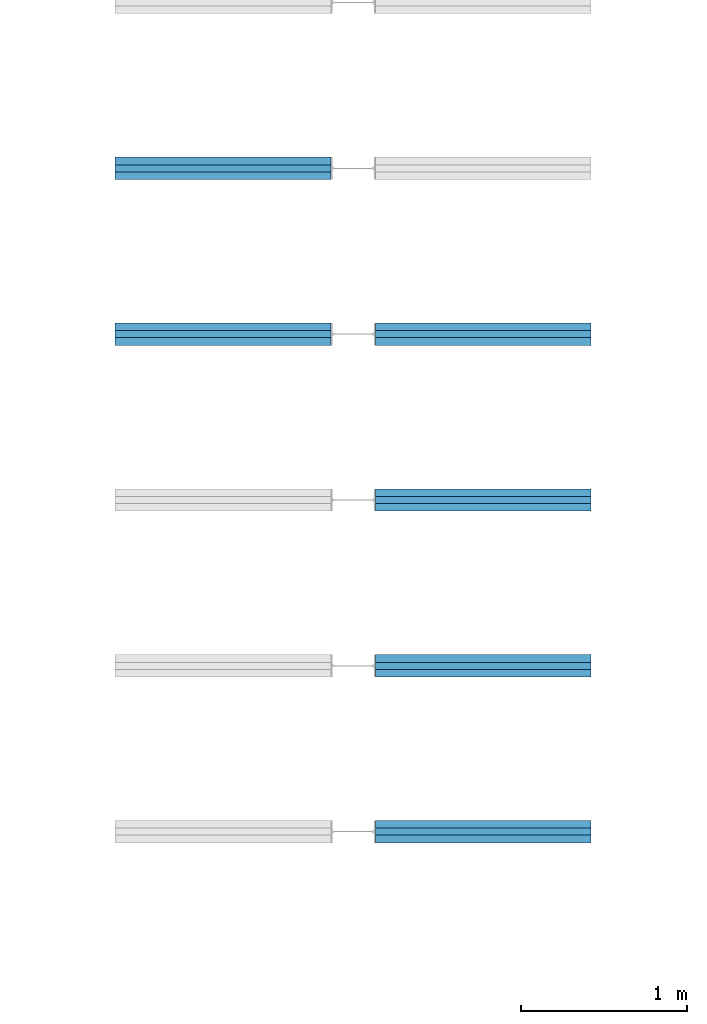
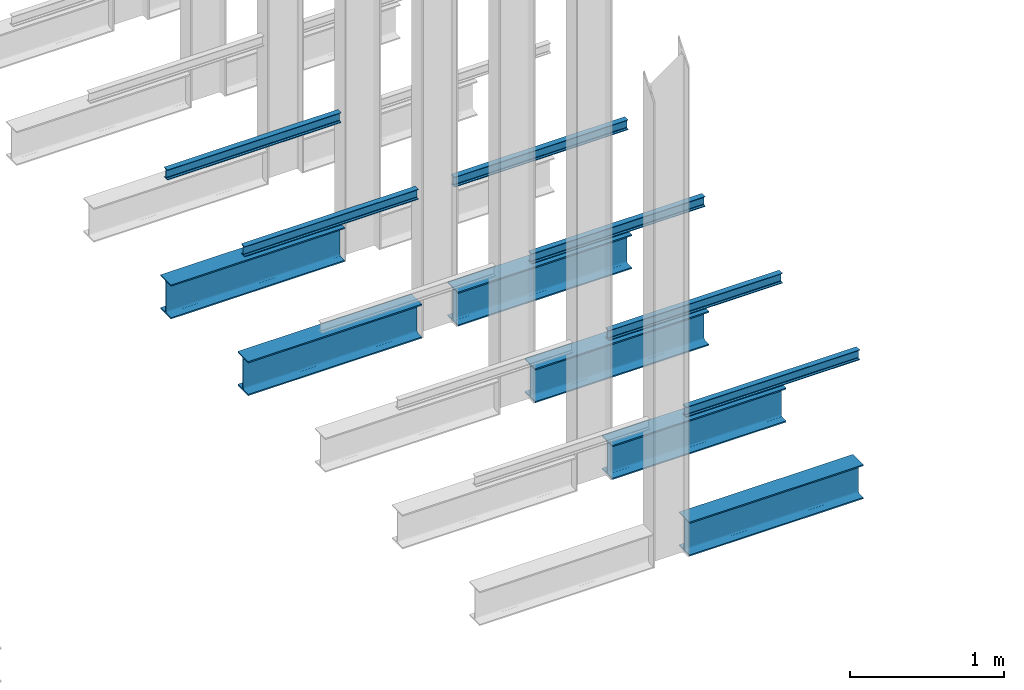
# One storey, part 161 of 302: 12 beams.
"""IFC2X3 building model written with IfcOpenShell, lengths in metres."""

import ifcopenshell
import ifcopenshell.guid

model = None  # the IFC model being written
_history = None  # IfcOwnerHistory: only IFC2X3 demands one
_inside = {}  # id of a spatial element -> (the spatial element, [elements in it])
_under = {}  # id of a project, library or spatial element -> (it, [spatial elements below it])
_declared = {}  # id of a project -> (the project, [libraries it declares])
_typed = {}  # id of a type object -> (the type object, [elements of that type])
_made_of = {}  # id of a material, layer set ... -> (it, [elements and type objects made of it])


def new_model(schema):
    """Start an empty IFC model of exactly this schema.

    Asked for "IFC4X3", IfcOpenShell would pick the latest addendum, in which some entities
    have other attributes; the version numbers below select the first issue.
    IFC2X3 requires an IfcOwnerHistory on every rooted entity: one is made here for all.
    """
    global model, _history
    if schema == "IFC4X3":
        model = ifcopenshell.file(schema_version=(4, 3, 0, 0))
    else:
        model = ifcopenshell.file(schema=schema)
    _inside.clear()
    _under.clear()
    _declared.clear()
    _typed.clear()
    _made_of.clear()
    _history = None
    if model.schema == "IFC2X3":
        org = make("IfcOrganization", Name="unknown")
        user = make(
            "IfcPersonAndOrganization",
            ThePerson=make("IfcPerson", FamilyName="unknown"),
            TheOrganization=org,
        )
        app = make(
            "IfcApplication",
            ApplicationDeveloper=org,
            Version="unknown",
            ApplicationFullName="unknown",
            ApplicationIdentifier="unknown",
        )
        _history = make(
            "IfcOwnerHistory",
            OwningUser=user,
            OwningApplication=app,
            ChangeAction="ADDED",
            CreationDate=0,
        )
    return model


def make(cls, **values):
    """One entity of the class cls with the attributes given. An attribute that is None is left unset."""
    return model.create_entity(
        cls, **{name: value for name, value in values.items() if value is not None}
    )


def entity(cls, *values):
    """Any entity or typed value of the class cls, its attributes in the order of the schema. None: left unset."""
    e = model.create_entity(cls)
    for i, value in enumerate(values):
        if value is not None:
            e[i] = value
    return e


def rooted(cls, **values):
    """An entity with a GlobalId (a new one), such as an element, a storey or a relation."""
    return make(cls, GlobalId=ifcopenshell.guid.new(), OwnerHistory=_history, **values)


def si_unit(unit_type, name, prefix=None):
    """IfcSIUnit, for example si_unit("LENGTHUNIT", "METRE", prefix="MILLI")."""
    return make("IfcSIUnit", UnitType=unit_type, Prefix=prefix, Name=name)


def converted_unit(unit_type, name, factor, base, dimensions=None, offset=None):
    """IfcConversionBasedUnit, such as the inch: factor (a typed value) times the base unit."""
    return make(
        "IfcConversionBasedUnit"
        if offset is None
        else "IfcConversionBasedUnitWithOffset",
        ConversionOffset=offset,
        Dimensions=None
        if dimensions is None
        else entity("IfcDimensionalExponents", *dimensions),
        UnitType=unit_type,
        Name=name,
        ConversionFactor=make(
            "IfcMeasureWithUnit", ValueComponent=factor, UnitComponent=base
        ),
    )


def derived_unit(unit_type, elements):
    """IfcDerivedUnit: a product of units, each with its exponent."""
    return make(
        "IfcDerivedUnit",
        Elements=[
            make("IfcDerivedUnitElement", Unit=unit, Exponent=power)
            for unit, power in elements
        ],
        UnitType=unit_type,
    )


def assignment(units):
    """IfcUnitAssignment: the units of a project."""
    return None if units is None else make("IfcUnitAssignment", Units=units)


def point(xyz):
    """IfcCartesianPoint."""
    return None if xyz is None else make("IfcCartesianPoint", Coordinates=xyz)


def direction(xyz):
    """IfcDirection."""
    return None if xyz is None else make("IfcDirection", DirectionRatios=xyz)


def frame(location, z_axis=None, x_axis=None):
    """IfcAxis2Placement3D, a coordinate frame: its origin and axes. An axis left out is left unset."""
    return make(
        "IfcAxis2Placement3D",
        Location=point(location),
        Axis=direction(z_axis),
        RefDirection=direction(x_axis),
    )


def frame_2d(location, x_axis=None):
    """IfcAxis2Placement2D, a coordinate frame in the plane: its origin and x axis."""
    return make(
        "IfcAxis2Placement2D", Location=point(location), RefDirection=direction(x_axis)
    )


def origin():
    """The frame at (0, 0, 0) with its axes left unset."""
    return frame((0.0, 0.0, 0.0))


def place(relative_to, where):
    """IfcLocalPlacement: puts the frame where relative to a parent placement (None: the world)."""
    return make(
        "IfcLocalPlacement", PlacementRelTo=relative_to, RelativePlacement=where
    )


def context(
    kind, dimensions, precision=None, world=None, true_north=None, identifier=None
):
    """IfcGeometricRepresentationContext, for example the 3D "Model" context."""
    return make(
        "IfcGeometricRepresentationContext",
        ContextIdentifier=identifier,
        ContextType=kind,
        CoordinateSpaceDimension=dimensions,
        Precision=precision,
        WorldCoordinateSystem=world,
        TrueNorth=true_north,
    )


def subcontext(parent, identifier, kind, view, scale=None):
    """IfcGeometricRepresentationSubContext, for example "Body" below "Model"."""
    return make(
        "IfcGeometricRepresentationSubContext",
        ContextIdentifier=identifier,
        ContextType=kind,
        ParentContext=parent,
        TargetScale=scale,
        TargetView=view,
    )


def project(units=None, contexts=None):
    """IfcProject with its units and contexts."""
    return rooted(
        "IfcProject",
        Name="project",
        RepresentationContexts=contexts,
        UnitsInContext=assignment(units),
    )


def spatial(cls, under=None, at=None, **own):
    """A site, building, storey or space (cls), placed at a placement, below another one or the project."""
    s = rooted(cls, ObjectPlacement=at, **own)
    if under is not None:
        _under.setdefault(under.id(), (under, []))[1].append(s)
    return s


def polyline(points):
    """IfcPolyline through the points."""
    return make("IfcPolyline", Points=[point(p) for p in points])


def circle_curve(where, radius):
    """IfcCircle in the frame where."""
    return make("IfcCircle", Position=where, Radius=radius)


def parameter(value):
    """IfcParameterValue: where a trimmed curve begins or ends, as a parameter of its basis curve."""
    return model.create_entity("IfcParameterValue", value)


def trimmed(basis, trim1, trim2, sense, master):
    """IfcTrimmedCurve: the piece of a basis curve between two trims."""
    return make(
        "IfcTrimmedCurve",
        BasisCurve=basis,
        Trim1=trim1,
        Trim2=trim2,
        SenseAgreement=sense,
        MasterRepresentation=master,
    )


def segment(curve, same_sense, transition):
    """IfcCompositeCurveSegment."""
    return make(
        "IfcCompositeCurveSegment",
        Transition=transition,
        SameSense=same_sense,
        ParentCurve=curve,
    )


def composite_curve(segments, self_intersect=None):
    """IfcCompositeCurve: segments joined end to end."""
    return make("IfcCompositeCurve", Segments=segments, SelfIntersect=self_intersect)


def profile(cls, at=None, kind="AREA", **sizes):
    """A parametric profile (cls). Its sizes go by their IFC names, for example OverallWidth=200.0."""
    return make(cls, ProfileType=kind, Position=at, **sizes)


def i_section(**sizes):
    """IfcIShapeProfileDef."""
    return profile("IfcIShapeProfileDef", **sizes)


def outline(outer, holes=None, kind="AREA"):
    """IfcArbitraryClosedProfileDef: a profile drawn as a closed curve; with holes, ...WithVoids."""
    if holes is None:
        return make("IfcArbitraryClosedProfileDef", ProfileType=kind, OuterCurve=outer)
    return make(
        "IfcArbitraryProfileDefWithVoids",
        ProfileType=kind,
        OuterCurve=outer,
        InnerCurves=holes,
    )


def extrude(swept, where, along, depth):
    """IfcExtrudedAreaSolid: the profile swept, set in the frame where, extruded along a direction by depth."""
    return make(
        "IfcExtrudedAreaSolid",
        SweptArea=swept,
        Position=where,
        ExtrudedDirection=direction(along),
        Depth=depth,
    )


def shape(context_of_items, identifier, shape_type, items):
    """IfcShapeRepresentation: the items that make up one representation, for example the "Body"."""
    return make(
        "IfcShapeRepresentation",
        ContextOfItems=context_of_items,
        RepresentationIdentifier=identifier,
        RepresentationType=shape_type,
        Items=items,
    )


def material(Name=None, Category=None):
    """IfcMaterial."""
    return make("IfcMaterial", Name=Name, Category=Category)


def made_of(thing, what):
    """Note that an element or type object is made of a material, layer set ...; save() writes the relation."""
    if what is not None:
        _made_of.setdefault(what.id(), (what, []))[1].append(thing)
    return thing


def type_object(cls, material=None, **own):
    """A type object (cls), such as IfcWallType, which elements share."""
    return made_of(rooted(cls, **own), material)


def element(
    cls,
    number,
    at=None,
    inside=None,
    cuts=None,
    type_object=None,
    material=None,
    context=None,
    identifier="Body",
    shape_type=None,
    held_by="IfcProductDefinitionShape",
    body=None,
    shapes=None,
    **own,
):
    """One element of the class cls, such as IfcWall. Its Tag is "e" and its number.

    at: its placement. inside: the storey or other place that contains it. cuts: it is an
    opening in that element (IfcRelVoidsElement). A single representation is given by context,
    identifier, shape_type and body (its items); several are given by shapes. held_by: the class
    of the entity that holds the representations. save() writes the other relations.
    """
    e = rooted(cls, Tag="e%d" % number, ObjectPlacement=at, **own)
    if body is not None:
        shapes = [shape(context, identifier, shape_type, body)]
    if shapes is not None:
        e.Representation = make(held_by, Representations=shapes)
    if inside is not None:
        _inside.setdefault(inside.id(), (inside, []))[1].append(e)
    if cuts is not None:
        rooted(
            "IfcRelVoidsElement", RelatingBuildingElement=cuts, RelatedOpeningElement=e
        )
    if type_object is not None:
        _typed.setdefault(type_object.id(), (type_object, []))[1].append(e)
    return made_of(e, material)


def aggregate(whole, parts):
    """IfcRelAggregates: a whole, such as a stair, and the parts it consists of."""
    return rooted("IfcRelAggregates", RelatingObject=whole, RelatedObjects=parts)


def save(model, path):
    """Write the relations noted so far, then the file.

    IfcRelAggregates (storeys below a building ...), IfcRelContainedInSpatialStructure (elements
    in a storey), IfcRelDefinesByType, IfcRelAssociatesMaterial and IfcRelDeclares: one each for
    every whole, place, type object, material and project.
    """
    for whole, parts in _under.values():
        aggregate(whole, parts)
    for where, things in _inside.values():
        rooted(
            "IfcRelContainedInSpatialStructure",
            RelatedElements=things,
            RelatingStructure=where,
        )
    for kind, things in _typed.values():
        rooted("IfcRelDefinesByType", RelatedObjects=things, RelatingType=kind)
    for what, things in _made_of.values():
        rooted("IfcRelAssociatesMaterial", RelatedObjects=things, RelatingMaterial=what)
    for by, libraries in _declared.values():
        rooted("IfcRelDeclares", RelatingContext=by, RelatedDefinitions=libraries)
    model.write(path)


model = new_model("IFC2X3")

# Units and contexts
model_context = context("Model", 3, precision=1e-05, world=origin(), true_north=direction((6.12303176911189e-17, 1.0)))
body_context = subcontext(model_context, "Body", "Model", "MODEL_VIEW")
ifc_project = project(units=[si_unit("LENGTHUNIT", "METRE"), si_unit("AREAUNIT", "SQUARE_METRE"), si_unit("VOLUMEUNIT", "CUBIC_METRE"), converted_unit("PLANEANGLEUNIT", "DEGREE", entity("IfcRatioMeasure", 0.0174532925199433), si_unit("PLANEANGLEUNIT", "RADIAN"), dimensions=[0, 0, 0, 0, 0, 0, 0]), si_unit("MASSUNIT", "GRAM", prefix="KILO"), derived_unit("MASSDENSITYUNIT", [(si_unit("MASSUNIT", "GRAM", prefix="KILO"), 1), (si_unit("LENGTHUNIT", "METRE"), -3)]), derived_unit("MOMENTOFINERTIAUNIT", [(si_unit("LENGTHUNIT", "METRE"), 4)]), si_unit("TIMEUNIT", "SECOND"), si_unit("FREQUENCYUNIT", "HERTZ"), si_unit("THERMODYNAMICTEMPERATUREUNIT", "DEGREE_CELSIUS"), derived_unit("THERMALTRANSMITTANCEUNIT", [(si_unit("MASSUNIT", "GRAM", prefix="KILO"), 1), (si_unit("THERMODYNAMICTEMPERATUREUNIT", "KELVIN"), -1), (si_unit("TIMEUNIT", "SECOND"), -3)]), derived_unit("VOLUMETRICFLOWRATEUNIT", [(si_unit("LENGTHUNIT", "METRE"), 3), (si_unit("TIMEUNIT", "SECOND"), -1)]), si_unit("ELECTRICCURRENTUNIT", "AMPERE"), si_unit("ELECTRICVOLTAGEUNIT", "VOLT"), si_unit("POWERUNIT", "WATT"), si_unit("FORCEUNIT", "NEWTON", prefix="KILO"), si_unit("ILLUMINANCEUNIT", "LUX"), si_unit("LUMINOUSFLUXUNIT", "LUMEN"), si_unit("LUMINOUSINTENSITYUNIT", "CANDELA"), derived_unit("USERDEFINED", [(si_unit("MASSUNIT", "GRAM", prefix="KILO"), -1), (si_unit("LENGTHUNIT", "METRE"), -2), (si_unit("TIMEUNIT", "SECOND"), 3), (si_unit("LUMINOUSFLUXUNIT", "LUMEN"), 1)]), derived_unit("LINEARVELOCITYUNIT", [(si_unit("LENGTHUNIT", "METRE"), 1), (si_unit("TIMEUNIT", "SECOND"), -1)]), si_unit("PRESSUREUNIT", "PASCAL"), derived_unit("USERDEFINED", [(si_unit("LENGTHUNIT", "METRE"), -2), (si_unit("MASSUNIT", "GRAM", prefix="KILO"), 1), (si_unit("TIMEUNIT", "SECOND"), -2)]), derived_unit("LINEARFORCEUNIT", [(si_unit("MASSUNIT", "GRAM", prefix="KILO"), 1), (si_unit("LENGTHUNIT", "METRE"), 1), (si_unit("TIMEUNIT", "SECOND"), -2), (si_unit("LENGTHUNIT", "METRE"), -1)]), derived_unit("PLANARFORCEUNIT", [(si_unit("MASSUNIT", "GRAM", prefix="KILO"), 1), (si_unit("LENGTHUNIT", "METRE"), 1), (si_unit("TIMEUNIT", "SECOND"), -2), (si_unit("LENGTHUNIT", "METRE"), -2)])], contexts=[model_context])

# Site, building, storey
site_placement = place(None, origin())
site = spatial("IfcSite", under=ifc_project, at=site_placement, Name="Default", CompositionType="ELEMENT")
building_placement = place(site_placement, origin())
building = spatial("IfcBuilding", under=site, at=building_placement, CompositionType="ELEMENT")
storey_placement = place(building_placement, frame((0.0, 0.0, -1.3)))
storey = spatial("IfcBuildingStorey", under=building, at=storey_placement, Name="00_EG", CompositionType="ELEMENT", Elevation=-1.3)

# Beams
ifc_material = material(Name="Metall - Baustahl S235")
beam_type_1 = type_object("IfcBeamType", Name="IPN Träger:IPN 80", PredefinedType="NOTDEFINED")
beam_1_placement = place(storey_placement, frame((-164.910111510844, 28.036588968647, 2.42), z_axis=(0.0, 0.0, 1.0), x_axis=(-1.0, 0.0, 0.0)))
element("IfcBeam", 1, at=beam_1_placement, inside=storey, type_object=beam_type_1, material=ifc_material, Name="IPN Träger:IPN 80", ObjectType="IPN Träger:IPN 80", context=body_context, shape_type="SweptSolid", body=[
    extrude(outline(composite_curve([segment(polyline([(0.0375704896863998, -0.0210000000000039), (0.0399999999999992, -0.0210000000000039)]), True, "CONTINUOUS"), segment(polyline([(0.0399999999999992, -0.0210000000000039), (0.0399999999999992, 0.0209999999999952)]), True, "CONTINUOUS"), segment(polyline([(0.039999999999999, 0.0209999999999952), (0.037570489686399, 0.0209999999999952)]), True, "CONTINUOUS"), segment(trimmed(circle_curve(frame_2d((0.037570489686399, 0.0186999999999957), x_axis=(0.0, 1.0)), 0.00230000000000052), [parameter(0.0)], [parameter(82.0299999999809)], True, "PARAMETER"), True, "CONTINUOUS"), segment(polyline([(0.0352927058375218, 0.0190189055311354), (0.0333732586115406, 0.00530924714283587)]), True, "CONTINUOUS"), segment(trimmed(circle_curve(frame_2d((0.0295109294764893, 0.00584999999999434), x_axis=(0.990340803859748, -0.138654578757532)), 0.00389999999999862), [parameter(277.969999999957)], [parameter(0.0)], True, "PARAMETER"), False, "CONTINUOUS"), segment(polyline([(0.0295109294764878, 0.00194999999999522), (-0.0295109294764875, 0.00194999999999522)]), True, "CONTINUOUS"), segment(trimmed(circle_curve(frame_2d((-0.029510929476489, 0.00584999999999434), x_axis=(0.0, -1.0)), 0.00389999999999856), [parameter(277.969999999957)], [parameter(0.0)], True, "PARAMETER"), False, "CONTINUOUS"), segment(polyline([(-0.0333732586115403, 0.0053092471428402), (-0.0352927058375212, 0.0190189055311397)]), True, "CONTINUOUS"), segment(trimmed(circle_curve(frame_2d((-0.0375704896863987, 0.0186999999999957), x_axis=(0.990340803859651, 0.138654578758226)), 0.00230000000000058), [parameter(0.0)], [parameter(82.029999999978)], True, "PARAMETER"), True, "CONTINUOUS"), segment(polyline([(-0.0375704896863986, 0.0209999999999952), (-0.0400000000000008, 0.0209999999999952)]), True, "CONTINUOUS"), segment(polyline([(-0.0400000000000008, 0.0209999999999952), (-0.0400000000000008, -0.0210000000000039)]), True, "CONTINUOUS"), segment(polyline([(-0.0400000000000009, -0.0210000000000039), (-0.037570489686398, -0.0210000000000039)]), True, "CONTINUOUS"), segment(trimmed(circle_curve(frame_2d((-0.0375704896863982, -0.0187000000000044), x_axis=(0.0, -1.0)), 0.00230000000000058), [parameter(0.0)], [parameter(82.029999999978)], True, "PARAMETER"), True, "CONTINUOUS"), segment(polyline([(-0.0352927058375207, -0.019018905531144), (-0.0333732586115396, -0.00530924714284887)]), True, "CONTINUOUS"), segment(trimmed(circle_curve(frame_2d((-0.0295109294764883, -0.005850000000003), x_axis=(-0.990340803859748, 0.138654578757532)), 0.00389999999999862), [parameter(277.969999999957)], [parameter(0.0)], True, "PARAMETER"), False, "CONTINUOUS"), segment(polyline([(-0.0295109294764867, -0.00195000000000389), (0.0295109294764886, -0.00195000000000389)]), True, "CONTINUOUS"), segment(trimmed(circle_curve(frame_2d((0.0295109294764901, -0.005850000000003), x_axis=(0.0, 1.0)), 0.00389999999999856), [parameter(277.969999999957)], [parameter(0.0)], True, "PARAMETER"), False, "CONTINUOUS"), segment(polyline([(0.0333732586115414, -0.00530924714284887), (0.0352927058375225, -0.0190189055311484)]), True, "CONTINUOUS"), segment(trimmed(circle_curve(frame_2d((0.0375704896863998, -0.0187000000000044), x_axis=(-0.990340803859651, -0.138654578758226)), 0.00230000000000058), [parameter(0.0)], [parameter(82.029999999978)], True, "PARAMETER"), True, "CONTINUOUS")], self_intersect=False)), frame((0.000100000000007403, 0.0210000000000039, -0.0400000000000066), z_axis=(1.0, 0.0, 0.0), x_axis=(0.0, 0.0, -1.0)), (0.0, 0.0, 1.0), 1.29990000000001),
])
beam_2_placement = place(storey_placement, frame((-164.640111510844, 26.994588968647, 2.42)))
element("IfcBeam", 2, at=beam_2_placement, inside=storey, type_object=beam_type_1, material=ifc_material, Name="IPN Träger:IPN 80", ObjectType="IPN Träger:IPN 80", context=body_context, shape_type="SweptSolid", body=[
    extrude(outline(composite_curve([segment(polyline([(0.0375704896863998, -0.0210000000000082), (0.0399999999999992, -0.0210000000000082)]), True, "CONTINUOUS"), segment(polyline([(0.0399999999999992, -0.0210000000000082), (0.0399999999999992, 0.0209999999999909)]), True, "CONTINUOUS"), segment(polyline([(0.039999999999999, 0.0209999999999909), (0.037570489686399, 0.0209999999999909)]), True, "CONTINUOUS"), segment(trimmed(circle_curve(frame_2d((0.037570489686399, 0.0186999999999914), x_axis=(0.0, 1.0)), 0.00230000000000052), [parameter(0.0)], [parameter(82.0299999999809)], True, "PARAMETER"), True, "CONTINUOUS"), segment(polyline([(0.0352927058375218, 0.019018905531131), (0.0333732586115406, 0.00530924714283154)]), True, "CONTINUOUS"), segment(trimmed(circle_curve(frame_2d((0.0295109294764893, 0.00584999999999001), x_axis=(0.990340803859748, -0.138654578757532)), 0.00389999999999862), [parameter(277.969999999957)], [parameter(0.0)], True, "PARAMETER"), False, "CONTINUOUS"), segment(polyline([(0.0295109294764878, 0.00194999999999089), (-0.0295109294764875, 0.00194999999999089)]), True, "CONTINUOUS"), segment(trimmed(circle_curve(frame_2d((-0.029510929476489, 0.00584999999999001), x_axis=(0.0, -1.0)), 0.00389999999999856), [parameter(277.969999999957)], [parameter(0.0)], True, "PARAMETER"), False, "CONTINUOUS"), segment(polyline([(-0.0333732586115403, 0.00530924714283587), (-0.0352927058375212, 0.0190189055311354)]), True, "CONTINUOUS"), segment(trimmed(circle_curve(frame_2d((-0.0375704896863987, 0.0186999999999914), x_axis=(0.990340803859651, 0.138654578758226)), 0.00230000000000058), [parameter(0.0)], [parameter(82.029999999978)], True, "PARAMETER"), True, "CONTINUOUS"), segment(polyline([(-0.0375704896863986, 0.0209999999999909), (-0.0400000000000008, 0.0209999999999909)]), True, "CONTINUOUS"), segment(polyline([(-0.0400000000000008, 0.0209999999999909), (-0.0400000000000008, -0.0210000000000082)]), True, "CONTINUOUS"), segment(polyline([(-0.0400000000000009, -0.0210000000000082), (-0.037570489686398, -0.0210000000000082)]), True, "CONTINUOUS"), segment(trimmed(circle_curve(frame_2d((-0.0375704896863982, -0.0187000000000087), x_axis=(0.0, -1.0)), 0.00230000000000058), [parameter(0.0)], [parameter(82.029999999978)], True, "PARAMETER"), True, "CONTINUOUS"), segment(polyline([(-0.0352927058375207, -0.0190189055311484), (-0.0333732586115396, -0.0053092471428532)]), True, "CONTINUOUS"), segment(trimmed(circle_curve(frame_2d((-0.0295109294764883, -0.00585000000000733), x_axis=(-0.990340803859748, 0.138654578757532)), 0.00389999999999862), [parameter(277.969999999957)], [parameter(0.0)], True, "PARAMETER"), False, "CONTINUOUS"), segment(polyline([(-0.0295109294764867, -0.00195000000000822), (0.0295109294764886, -0.00195000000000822)]), True, "CONTINUOUS"), segment(trimmed(circle_curve(frame_2d((0.0295109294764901, -0.00585000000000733), x_axis=(0.0, 1.0)), 0.00389999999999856), [parameter(277.969999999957)], [parameter(0.0)], True, "PARAMETER"), False, "CONTINUOUS"), segment(polyline([(0.0333732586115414, -0.0053092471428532), (0.0352927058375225, -0.0190189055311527)]), True, "CONTINUOUS"), segment(trimmed(circle_curve(frame_2d((0.0375704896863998, -0.0187000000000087), x_axis=(-0.990340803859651, -0.138654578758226)), 0.00230000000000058), [parameter(0.0)], [parameter(82.029999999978)], True, "PARAMETER"), True, "CONTINUOUS")], self_intersect=False)), frame((9.99999999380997e-05, 0.0210000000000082, -0.0400000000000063), z_axis=(1.0, 0.0, 0.0), x_axis=(0.0, 0.0, -1.0)), (0.0, 0.0, 1.0), 1.29990000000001),
])
beam_3_placement = place(storey_placement, frame((-164.910111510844, 27.036588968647, 2.42), z_axis=(0.0, 0.0, 1.0), x_axis=(-1.0, 0.0, 0.0)))
element("IfcBeam", 3, at=beam_3_placement, inside=storey, type_object=beam_type_1, material=ifc_material, Name="IPN Träger:IPN 80", ObjectType="IPN Träger:IPN 80", context=body_context, shape_type="SweptSolid", body=[
    extrude(outline(composite_curve([segment(polyline([(0.0375704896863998, -0.0210000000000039), (0.0399999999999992, -0.0210000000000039)]), True, "CONTINUOUS"), segment(polyline([(0.0399999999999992, -0.0210000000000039), (0.0399999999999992, 0.0209999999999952)]), True, "CONTINUOUS"), segment(polyline([(0.039999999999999, 0.0209999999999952), (0.037570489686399, 0.0209999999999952)]), True, "CONTINUOUS"), segment(trimmed(circle_curve(frame_2d((0.037570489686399, 0.0186999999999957), x_axis=(0.0, 1.0)), 0.00230000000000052), [parameter(0.0)], [parameter(82.0299999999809)], True, "PARAMETER"), True, "CONTINUOUS"), segment(polyline([(0.0352927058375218, 0.0190189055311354), (0.0333732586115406, 0.00530924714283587)]), True, "CONTINUOUS"), segment(trimmed(circle_curve(frame_2d((0.0295109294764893, 0.00584999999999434), x_axis=(0.990340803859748, -0.138654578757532)), 0.00389999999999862), [parameter(277.969999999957)], [parameter(0.0)], True, "PARAMETER"), False, "CONTINUOUS"), segment(polyline([(0.0295109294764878, 0.00194999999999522), (-0.0295109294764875, 0.00194999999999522)]), True, "CONTINUOUS"), segment(trimmed(circle_curve(frame_2d((-0.029510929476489, 0.00584999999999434), x_axis=(0.0, -1.0)), 0.00389999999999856), [parameter(277.969999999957)], [parameter(0.0)], True, "PARAMETER"), False, "CONTINUOUS"), segment(polyline([(-0.0333732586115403, 0.0053092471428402), (-0.0352927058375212, 0.0190189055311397)]), True, "CONTINUOUS"), segment(trimmed(circle_curve(frame_2d((-0.0375704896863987, 0.0186999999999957), x_axis=(0.990340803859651, 0.138654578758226)), 0.00230000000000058), [parameter(0.0)], [parameter(82.029999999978)], True, "PARAMETER"), True, "CONTINUOUS"), segment(polyline([(-0.0375704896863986, 0.0209999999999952), (-0.0400000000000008, 0.0209999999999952)]), True, "CONTINUOUS"), segment(polyline([(-0.0400000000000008, 0.0209999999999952), (-0.0400000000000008, -0.0210000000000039)]), True, "CONTINUOUS"), segment(polyline([(-0.0400000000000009, -0.0210000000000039), (-0.037570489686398, -0.0210000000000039)]), True, "CONTINUOUS"), segment(trimmed(circle_curve(frame_2d((-0.0375704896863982, -0.0187000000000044), x_axis=(0.0, -1.0)), 0.00230000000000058), [parameter(0.0)], [parameter(82.029999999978)], True, "PARAMETER"), True, "CONTINUOUS"), segment(polyline([(-0.0352927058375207, -0.019018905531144), (-0.0333732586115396, -0.00530924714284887)]), True, "CONTINUOUS"), segment(trimmed(circle_curve(frame_2d((-0.0295109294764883, -0.005850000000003), x_axis=(-0.990340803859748, 0.138654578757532)), 0.00389999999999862), [parameter(277.969999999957)], [parameter(0.0)], True, "PARAMETER"), False, "CONTINUOUS"), segment(polyline([(-0.0295109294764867, -0.00195000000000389), (0.0295109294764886, -0.00195000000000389)]), True, "CONTINUOUS"), segment(trimmed(circle_curve(frame_2d((0.0295109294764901, -0.005850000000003), x_axis=(0.0, 1.0)), 0.00389999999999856), [parameter(277.969999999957)], [parameter(0.0)], True, "PARAMETER"), False, "CONTINUOUS"), segment(polyline([(0.0333732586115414, -0.00530924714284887), (0.0352927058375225, -0.0190189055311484)]), True, "CONTINUOUS"), segment(trimmed(circle_curve(frame_2d((0.0375704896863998, -0.0187000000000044), x_axis=(-0.990340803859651, -0.138654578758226)), 0.00230000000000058), [parameter(0.0)], [parameter(82.029999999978)], True, "PARAMETER"), True, "CONTINUOUS")], self_intersect=False)), frame((0.000100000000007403, 0.0210000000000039, -0.0400000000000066), z_axis=(1.0, 0.0, 0.0), x_axis=(0.0, 0.0, -1.0)), (0.0, 0.0, 1.0), 1.29990000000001),
])
beam_4_placement = place(storey_placement, frame((-164.640111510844, 25.994588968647, 2.42)))
element("IfcBeam", 4, at=beam_4_placement, inside=storey, type_object=beam_type_1, material=ifc_material, Name="IPN Träger:IPN 80", ObjectType="IPN Träger:IPN 80", context=body_context, shape_type="SweptSolid", body=[
    extrude(outline(composite_curve([segment(polyline([(0.0375704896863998, -0.0209999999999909), (0.0399999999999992, -0.0209999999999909)]), True, "CONTINUOUS"), segment(polyline([(0.0399999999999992, -0.0209999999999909), (0.0399999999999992, 0.0210000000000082)]), True, "CONTINUOUS"), segment(polyline([(0.039999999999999, 0.0210000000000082), (0.037570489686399, 0.0210000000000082)]), True, "CONTINUOUS"), segment(trimmed(circle_curve(frame_2d((0.037570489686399, 0.0187000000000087), x_axis=(0.0, 1.0)), 0.00230000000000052), [parameter(0.0)], [parameter(82.0299999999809)], True, "PARAMETER"), True, "CONTINUOUS"), segment(polyline([(0.0352927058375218, 0.0190189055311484), (0.0333732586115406, 0.00530924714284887)]), True, "CONTINUOUS"), segment(trimmed(circle_curve(frame_2d((0.0295109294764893, 0.00585000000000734), x_axis=(0.990340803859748, -0.138654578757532)), 0.00389999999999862), [parameter(277.969999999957)], [parameter(0.0)], True, "PARAMETER"), False, "CONTINUOUS"), segment(polyline([(0.0295109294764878, 0.00195000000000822), (-0.0295109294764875, 0.00195000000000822)]), True, "CONTINUOUS"), segment(trimmed(circle_curve(frame_2d((-0.029510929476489, 0.00585000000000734), x_axis=(0.0, -1.0)), 0.00389999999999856), [parameter(277.969999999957)], [parameter(0.0)], True, "PARAMETER"), False, "CONTINUOUS"), segment(polyline([(-0.0333732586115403, 0.0053092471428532), (-0.0352927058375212, 0.0190189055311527)]), True, "CONTINUOUS"), segment(trimmed(circle_curve(frame_2d((-0.0375704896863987, 0.0187000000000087), x_axis=(0.990340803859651, 0.138654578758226)), 0.00230000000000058), [parameter(0.0)], [parameter(82.029999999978)], True, "PARAMETER"), True, "CONTINUOUS"), segment(polyline([(-0.0375704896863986, 0.0210000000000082), (-0.0400000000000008, 0.0210000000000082)]), True, "CONTINUOUS"), segment(polyline([(-0.0400000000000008, 0.0210000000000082), (-0.0400000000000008, -0.0209999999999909)]), True, "CONTINUOUS"), segment(polyline([(-0.0400000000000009, -0.0209999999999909), (-0.037570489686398, -0.0209999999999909)]), True, "CONTINUOUS"), segment(trimmed(circle_curve(frame_2d((-0.0375704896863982, -0.0186999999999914), x_axis=(0.0, -1.0)), 0.00230000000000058), [parameter(0.0)], [parameter(82.029999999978)], True, "PARAMETER"), True, "CONTINUOUS"), segment(polyline([(-0.0352927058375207, -0.019018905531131), (-0.0333732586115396, -0.00530924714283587)]), True, "CONTINUOUS"), segment(trimmed(circle_curve(frame_2d((-0.0295109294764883, -0.00584999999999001), x_axis=(-0.990340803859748, 0.138654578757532)), 0.00389999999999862), [parameter(277.969999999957)], [parameter(0.0)], True, "PARAMETER"), False, "CONTINUOUS"), segment(polyline([(-0.0295109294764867, -0.00194999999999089), (0.0295109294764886, -0.00194999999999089)]), True, "CONTINUOUS"), segment(trimmed(circle_curve(frame_2d((0.0295109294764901, -0.00584999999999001), x_axis=(0.0, 1.0)), 0.00389999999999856), [parameter(277.969999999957)], [parameter(0.0)], True, "PARAMETER"), False, "CONTINUOUS"), segment(polyline([(0.0333732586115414, -0.00530924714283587), (0.0352927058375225, -0.0190189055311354)]), True, "CONTINUOUS"), segment(trimmed(circle_curve(frame_2d((0.0375704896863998, -0.0186999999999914), x_axis=(-0.990340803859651, -0.138654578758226)), 0.00230000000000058), [parameter(0.0)], [parameter(82.029999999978)], True, "PARAMETER"), True, "CONTINUOUS")], self_intersect=False)), frame((9.99999999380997e-05, 0.0209999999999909, -0.0400000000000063), z_axis=(1.0, 0.0, 0.0), x_axis=(0.0, 0.0, -1.0)), (0.0, 0.0, 1.0), 1.29990000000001),
])
beam_5_placement = place(storey_placement, frame((-164.640111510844, 24.994588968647, 2.42)))
element("IfcBeam", 5, at=beam_5_placement, inside=storey, type_object=beam_type_1, material=ifc_material, Name="IPN Träger:IPN 80", ObjectType="IPN Träger:IPN 80", context=body_context, shape_type="SweptSolid", body=[
    extrude(outline(composite_curve([segment(polyline([(0.0375704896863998, -0.0209999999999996), (0.0399999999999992, -0.0209999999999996)]), True, "CONTINUOUS"), segment(polyline([(0.0399999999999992, -0.0209999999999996), (0.0399999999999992, 0.0209999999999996)]), True, "CONTINUOUS"), segment(polyline([(0.039999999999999, 0.0209999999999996), (0.037570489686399, 0.0209999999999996)]), True, "CONTINUOUS"), segment(trimmed(circle_curve(frame_2d((0.037570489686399, 0.0187000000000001), x_axis=(0.0, 1.0)), 0.00230000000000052), [parameter(0.0)], [parameter(82.0299999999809)], True, "PARAMETER"), True, "CONTINUOUS"), segment(polyline([(0.0352927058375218, 0.0190189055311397), (0.0333732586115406, 0.00530924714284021)]), True, "CONTINUOUS"), segment(trimmed(circle_curve(frame_2d((0.0295109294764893, 0.00584999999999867), x_axis=(0.990340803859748, -0.138654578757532)), 0.00389999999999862), [parameter(277.969999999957)], [parameter(0.0)], True, "PARAMETER"), False, "CONTINUOUS"), segment(polyline([(0.0295109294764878, 0.00194999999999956), (-0.0295109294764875, 0.00194999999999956)]), True, "CONTINUOUS"), segment(trimmed(circle_curve(frame_2d((-0.029510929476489, 0.00584999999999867), x_axis=(0.0, -1.0)), 0.00389999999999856), [parameter(277.969999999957)], [parameter(0.0)], True, "PARAMETER"), False, "CONTINUOUS"), segment(polyline([(-0.0333732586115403, 0.00530924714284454), (-0.0352927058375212, 0.019018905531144)]), True, "CONTINUOUS"), segment(trimmed(circle_curve(frame_2d((-0.0375704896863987, 0.0187000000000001), x_axis=(0.990340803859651, 0.138654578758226)), 0.00230000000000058), [parameter(0.0)], [parameter(82.029999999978)], True, "PARAMETER"), True, "CONTINUOUS"), segment(polyline([(-0.0375704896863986, 0.0209999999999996), (-0.0400000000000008, 0.0209999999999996)]), True, "CONTINUOUS"), segment(polyline([(-0.0400000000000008, 0.0209999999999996), (-0.0400000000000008, -0.0209999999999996)]), True, "CONTINUOUS"), segment(polyline([(-0.0400000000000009, -0.0209999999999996), (-0.037570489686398, -0.0209999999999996)]), True, "CONTINUOUS"), segment(trimmed(circle_curve(frame_2d((-0.0375704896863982, -0.0187000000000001), x_axis=(0.0, -1.0)), 0.00230000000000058), [parameter(0.0)], [parameter(82.029999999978)], True, "PARAMETER"), True, "CONTINUOUS"), segment(polyline([(-0.0352927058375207, -0.0190189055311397), (-0.0333732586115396, -0.00530924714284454)]), True, "CONTINUOUS"), segment(trimmed(circle_curve(frame_2d((-0.0295109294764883, -0.00584999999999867), x_axis=(-0.990340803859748, 0.138654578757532)), 0.00389999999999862), [parameter(277.969999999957)], [parameter(0.0)], True, "PARAMETER"), False, "CONTINUOUS"), segment(polyline([(-0.0295109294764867, -0.00194999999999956), (0.0295109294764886, -0.00194999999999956)]), True, "CONTINUOUS"), segment(trimmed(circle_curve(frame_2d((0.0295109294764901, -0.00584999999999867), x_axis=(0.0, 1.0)), 0.00389999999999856), [parameter(277.969999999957)], [parameter(0.0)], True, "PARAMETER"), False, "CONTINUOUS"), segment(polyline([(0.0333732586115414, -0.00530924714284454), (0.0352927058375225, -0.019018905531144)]), True, "CONTINUOUS"), segment(trimmed(circle_curve(frame_2d((0.0375704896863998, -0.0187000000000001), x_axis=(-0.990340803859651, -0.138654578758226)), 0.00230000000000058), [parameter(0.0)], [parameter(82.029999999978)], True, "PARAMETER"), True, "CONTINUOUS")], self_intersect=False)), frame((9.99999999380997e-05, 0.0209999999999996, -0.0400000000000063), z_axis=(1.0, 0.0, 0.0), x_axis=(0.0, 0.0, -1.0)), (0.0, 0.0, 1.0), 1.29990000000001),
])
beam_6_placement = place(storey_placement, frame((-164.640111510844, 23.994588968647, 2.42)))
element("IfcBeam", 6, at=beam_6_placement, inside=storey, type_object=beam_type_1, material=ifc_material, Name="IPN Träger:IPN 80", ObjectType="IPN Träger:IPN 80", context=body_context, shape_type="SweptSolid", body=[
    extrude(outline(composite_curve([segment(polyline([(0.0375704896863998, -0.0210000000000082), (0.0399999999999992, -0.0210000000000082)]), True, "CONTINUOUS"), segment(polyline([(0.0399999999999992, -0.0210000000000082), (0.0399999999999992, 0.0209999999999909)]), True, "CONTINUOUS"), segment(polyline([(0.039999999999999, 0.0209999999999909), (0.037570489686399, 0.0209999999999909)]), True, "CONTINUOUS"), segment(trimmed(circle_curve(frame_2d((0.037570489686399, 0.0186999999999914), x_axis=(0.0, 1.0)), 0.00230000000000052), [parameter(0.0)], [parameter(82.0299999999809)], True, "PARAMETER"), True, "CONTINUOUS"), segment(polyline([(0.0352927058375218, 0.019018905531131), (0.0333732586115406, 0.00530924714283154)]), True, "CONTINUOUS"), segment(trimmed(circle_curve(frame_2d((0.0295109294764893, 0.00584999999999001), x_axis=(0.990340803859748, -0.138654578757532)), 0.00389999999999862), [parameter(277.969999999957)], [parameter(0.0)], True, "PARAMETER"), False, "CONTINUOUS"), segment(polyline([(0.0295109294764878, 0.00194999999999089), (-0.0295109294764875, 0.00194999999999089)]), True, "CONTINUOUS"), segment(trimmed(circle_curve(frame_2d((-0.029510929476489, 0.00584999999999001), x_axis=(0.0, -1.0)), 0.00389999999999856), [parameter(277.969999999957)], [parameter(0.0)], True, "PARAMETER"), False, "CONTINUOUS"), segment(polyline([(-0.0333732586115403, 0.00530924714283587), (-0.0352927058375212, 0.0190189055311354)]), True, "CONTINUOUS"), segment(trimmed(circle_curve(frame_2d((-0.0375704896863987, 0.0186999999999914), x_axis=(0.990340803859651, 0.138654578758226)), 0.00230000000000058), [parameter(0.0)], [parameter(82.029999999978)], True, "PARAMETER"), True, "CONTINUOUS"), segment(polyline([(-0.0375704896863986, 0.0209999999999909), (-0.0400000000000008, 0.0209999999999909)]), True, "CONTINUOUS"), segment(polyline([(-0.0400000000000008, 0.0209999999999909), (-0.0400000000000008, -0.0210000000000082)]), True, "CONTINUOUS"), segment(polyline([(-0.0400000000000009, -0.0210000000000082), (-0.037570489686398, -0.0210000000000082)]), True, "CONTINUOUS"), segment(trimmed(circle_curve(frame_2d((-0.0375704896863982, -0.0187000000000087), x_axis=(0.0, -1.0)), 0.00230000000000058), [parameter(0.0)], [parameter(82.029999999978)], True, "PARAMETER"), True, "CONTINUOUS"), segment(polyline([(-0.0352927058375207, -0.0190189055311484), (-0.0333732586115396, -0.0053092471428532)]), True, "CONTINUOUS"), segment(trimmed(circle_curve(frame_2d((-0.0295109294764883, -0.00585000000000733), x_axis=(-0.990340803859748, 0.138654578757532)), 0.00389999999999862), [parameter(277.969999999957)], [parameter(0.0)], True, "PARAMETER"), False, "CONTINUOUS"), segment(polyline([(-0.0295109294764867, -0.00195000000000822), (0.0295109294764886, -0.00195000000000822)]), True, "CONTINUOUS"), segment(trimmed(circle_curve(frame_2d((0.0295109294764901, -0.00585000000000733), x_axis=(0.0, 1.0)), 0.00389999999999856), [parameter(277.969999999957)], [parameter(0.0)], True, "PARAMETER"), False, "CONTINUOUS"), segment(polyline([(0.0333732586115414, -0.0053092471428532), (0.0352927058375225, -0.0190189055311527)]), True, "CONTINUOUS"), segment(trimmed(circle_curve(frame_2d((0.0375704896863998, -0.0187000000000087), x_axis=(-0.990340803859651, -0.138654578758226)), 0.00230000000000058), [parameter(0.0)], [parameter(82.029999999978)], True, "PARAMETER"), True, "CONTINUOUS")], self_intersect=False)), frame((9.99999999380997e-05, 0.0210000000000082, -0.0400000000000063), z_axis=(1.0, 0.0, 0.0), x_axis=(0.0, 0.0, -1.0)), (0.0, 0.0, 1.0), 1.29990000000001),
])
beam_type_2 = type_object("IfcBeamType", Name="IPE Träger:IPE 270", PredefinedType="NOTDEFINED")
beam_7_placement = place(storey_placement, frame((-164.640111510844, 24.083088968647, 1.54000000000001)))
element("IfcBeam", 7, at=beam_7_placement, inside=storey, type_object=beam_type_2, material=ifc_material, Name="IPE Träger:IPE 270", ObjectType="IPE Träger:IPE 270", context=body_context, shape_type="SweptSolid", body=[
    extrude(i_section(OverallWidth=0.134999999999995, OverallDepth=0.27, WebThickness=0.00660000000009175, FlangeThickness=0.0102000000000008, FilletRadius=0.0150000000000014, at=frame_2d((5.96744875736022e-16, 2.16493489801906e-15), x_axis=(0.0, 1.0))), frame((9.99999999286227e-05, -0.0674999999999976, -0.135000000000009), z_axis=(1.0, 0.0, 0.0), x_axis=(0.0, 0.0, -1.0)), (0.0, 0.0, 1.0), 1.29990000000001),
])
beam_8_placement = place(storey_placement, frame((-164.640111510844, 25.083088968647, 1.54000000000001)))
element("IfcBeam", 8, at=beam_8_placement, inside=storey, type_object=beam_type_2, material=ifc_material, Name="IPE Träger:IPE 270", ObjectType="IPE Träger:IPE 270", context=body_context, shape_type="SweptSolid", body=[
    extrude(i_section(OverallWidth=0.134999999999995, OverallDepth=0.27, WebThickness=0.00660000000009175, FlangeThickness=0.0102000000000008, FilletRadius=0.0150000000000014, at=frame_2d((5.96744875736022e-16, 2.16493489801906e-15), x_axis=(0.0, 1.0))), frame((9.99999999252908e-05, -0.0674999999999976, -0.135000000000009), z_axis=(1.0, 0.0, 0.0), x_axis=(0.0, 0.0, -1.0)), (0.0, 0.0, 1.0), 1.29990000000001),
])
beam_9_placement = place(storey_placement, frame((-164.640111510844, 26.083088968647, 1.54000000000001)))
element("IfcBeam", 9, at=beam_9_placement, inside=storey, type_object=beam_type_2, material=ifc_material, Name="IPE Träger:IPE 270", ObjectType="IPE Träger:IPE 270", context=body_context, shape_type="SweptSolid", body=[
    extrude(i_section(OverallWidth=0.134999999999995, OverallDepth=0.27, WebThickness=0.00660000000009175, FlangeThickness=0.0102000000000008, FilletRadius=0.0150000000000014, at=frame_2d((5.96744875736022e-16, -6.49480469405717e-15), x_axis=(0.0, 1.0))), frame((9.99999999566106e-05, -0.067499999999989, -0.135000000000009), z_axis=(1.0, 0.0, 0.0), x_axis=(0.0, 0.0, -1.0)), (0.0, 0.0, 1.0), 1.29990000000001),
])
beam_10_placement = place(storey_placement, frame((-164.910111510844, 27.083088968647, 1.54000000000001), z_axis=(0.0, 0.0, 1.0), x_axis=(-1.0, 0.0, 0.0)))
element("IfcBeam", 10, at=beam_10_placement, inside=storey, type_object=beam_type_2, material=ifc_material, Name="IPE Träger:IPE 270", ObjectType="IPE Träger:IPE 270", context=body_context, shape_type="SweptSolid", body=[
    extrude(i_section(OverallWidth=0.134999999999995, OverallDepth=0.27, WebThickness=0.00660000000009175, FlangeThickness=0.0102000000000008, FilletRadius=0.0150000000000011, at=frame_2d((5.96744875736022e-16, -2.16493489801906e-15), x_axis=(0.0, 1.0))), frame((0.000100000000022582, 0.067500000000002, -0.135000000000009), z_axis=(1.0, 0.0, 0.0), x_axis=(0.0, 0.0, -1.0)), (0.0, 0.0, 1.0), 1.29990000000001),
])
beam_11_placement = place(storey_placement, frame((-164.640111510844, 27.083088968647, 1.54000000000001)))
element("IfcBeam", 11, at=beam_11_placement, inside=storey, type_object=beam_type_2, material=ifc_material, Name="IPE Träger:IPE 270", ObjectType="IPE Träger:IPE 270", context=body_context, shape_type="SweptSolid", body=[
    extrude(i_section(OverallWidth=0.134999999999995, OverallDepth=0.27, WebThickness=0.00660000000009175, FlangeThickness=0.0102000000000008, FilletRadius=0.0150000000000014, at=frame_2d((5.96744875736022e-16, -2.16493489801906e-15), x_axis=(0.0, 1.0))), frame((9.99999999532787e-05, -0.0674999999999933, -0.135000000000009), z_axis=(1.0, 0.0, 0.0), x_axis=(0.0, 0.0, -1.0)), (0.0, 0.0, 1.0), 1.29990000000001),
])
beam_12_placement = place(storey_placement, frame((-164.910111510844, 28.083088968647, 1.54000000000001), z_axis=(0.0, 0.0, 1.0), x_axis=(-1.0, 0.0, 0.0)))
element("IfcBeam", 12, at=beam_12_placement, inside=storey, type_object=beam_type_2, material=ifc_material, Name="IPE Träger:IPE 270", ObjectType="IPE Träger:IPE 270", context=body_context, shape_type="SweptSolid", body=[
    extrude(i_section(OverallWidth=0.134999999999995, OverallDepth=0.27, WebThickness=0.00660000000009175, FlangeThickness=0.0102000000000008, FilletRadius=0.0150000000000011, at=frame_2d((5.96744875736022e-16, -6.49480469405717e-15), x_axis=(0.0, 1.0))), frame((0.00010000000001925, 0.0675000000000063, -0.135000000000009), z_axis=(1.0, 0.0, 0.0), x_axis=(0.0, 0.0, -1.0)), (0.0, 0.0, 1.0), 1.29990000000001),
])

save(model, "model.ifc")
